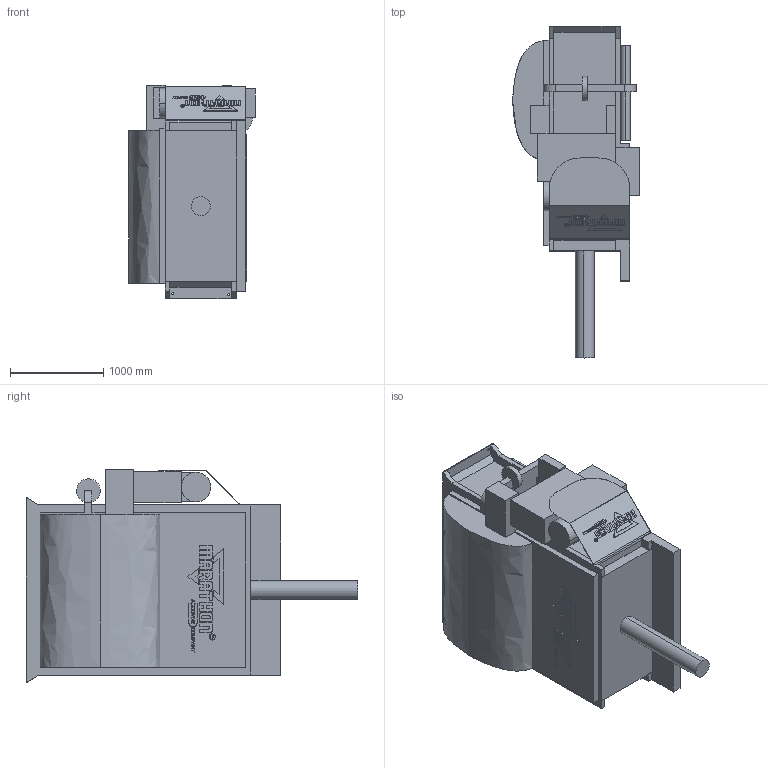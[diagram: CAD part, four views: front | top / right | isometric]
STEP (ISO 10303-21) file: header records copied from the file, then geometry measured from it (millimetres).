
FILE_DESCRIPTION((''),'2;1');
FILE_NAME('64657_ASM','2018-10-22T09:47:54',('bagosto'),(''),'CREO PARAMETRIC BY PTC INC, 2017110','CREO PARAMETRIC BY PTC INC, 2017110','');
FILE_SCHEMA(('CONFIG_CONTROL_DESIGN'));
Products named in the file (3): STRUCTURE; POWER_PACK; 64657_ASM
Assembly tree (2 placements, depth 2):
  64657_ASM
    STRUCTURE
    POWER_PACK
Bounding box: 1356.88 x 3549.65 x 2282.01 mm (x, y, z)
Volume: 2509243961.8 mm3; surface area: 36512743.5 mm2
Topology: 4 solids, 4 shells, 2063 faces, 5692 edges, 3790 vertices
Faces by surface type: plane 1886, cylinder 175, extrusion 2
Entity records: 64825 total; most frequent: CARTESIAN_POINT 11675, ORIENTED_EDGE 11384, DIRECTION 10175, EDGE_CURVE 5692, VECTOR 5327, LINE 5325, VERTEX_POINT 3790, AXIS2_PLACEMENT_3D 2424
